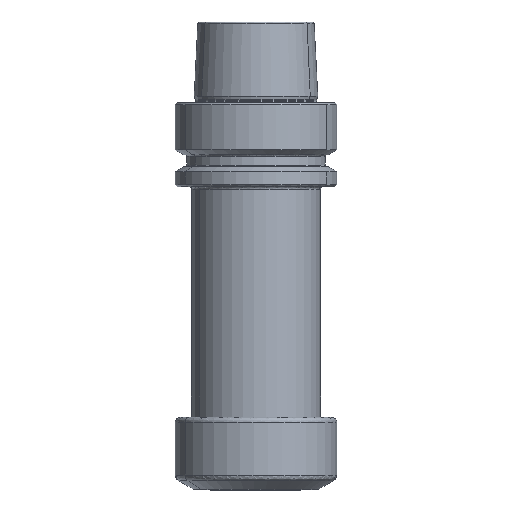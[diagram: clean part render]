
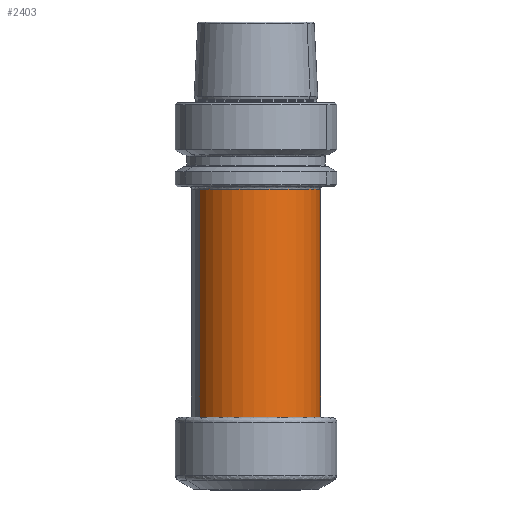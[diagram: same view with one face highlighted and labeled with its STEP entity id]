
A CAD part, left-side view. The second image highlights one B-rep face of the part: STEP entity #2403.
In plain terms, the highlighted face is a revolution surface.
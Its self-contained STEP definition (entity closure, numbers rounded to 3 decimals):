
#2371=AXIS2_PLACEMENT_3D('Circle Axis2P3D',#2369,#2370,$) ;
#2394=AXIS2_PLACEMENT_3D('Circle Axis2P3D',#2392,#2393,$) ;
#969=CARTESIAN_POINT('Vertex',(9.589,-17.552,-26.8)) ;
#976=CARTESIAN_POINT('Vertex',(-9.589,17.552,-26.8)) ;
#1006=CARTESIAN_POINT('Control Point',(9.589,-17.552,-98.366)) ;
#1007=CARTESIAN_POINT('Control Point',(9.589,-17.552,-84.053)) ;
#1008=CARTESIAN_POINT('Control Point',(9.589,-17.552,-69.74)) ;
#1009=CARTESIAN_POINT('Control Point',(9.589,-17.552,-55.426)) ;
#1010=CARTESIAN_POINT('Control Point',(9.589,-17.552,-41.113)) ;
#1011=CARTESIAN_POINT('Control Point',(9.589,-17.552,-26.8)) ;
#1012=CARTESIAN_POINT('Vertex',(9.589,-17.552,-98.366)) ;
#1019=CARTESIAN_POINT('Vertex',(-9.589,17.552,-98.366)) ;
#1023=CARTESIAN_POINT('Control Point',(-9.589,17.552,-98.366)) ;
#1024=CARTESIAN_POINT('Control Point',(-9.589,17.552,-84.053)) ;
#1025=CARTESIAN_POINT('Control Point',(-9.589,17.552,-69.74)) ;
#1026=CARTESIAN_POINT('Control Point',(-9.589,17.552,-55.426)) ;
#1027=CARTESIAN_POINT('Control Point',(-9.589,17.552,-41.113)) ;
#1028=CARTESIAN_POINT('Control Point',(-9.589,17.552,-26.8)) ;
#2369=CARTESIAN_POINT('Axis2P3D Location',(0.,0.,-98.366)) ;
#2382=CARTESIAN_POINT('Control Point',(0.,-20.,-98.366)) ;
#2383=CARTESIAN_POINT('Control Point',(0.,-20.,-84.053)) ;
#2384=CARTESIAN_POINT('Control Point',(0.,-20.,-69.74)) ;
#2385=CARTESIAN_POINT('Control Point',(0.,-20.,-55.426)) ;
#2386=CARTESIAN_POINT('Control Point',(0.,-20.,-41.113)) ;
#2387=CARTESIAN_POINT('Control Point',(0.,-20.,-26.8)) ;
#2388=CARTESIAN_POINT('Axis1P Location',(0.,0.,-47.486)) ;
#2392=CARTESIAN_POINT('Axis2P3D Location',(0.,0.,-26.8)) ;
#2370=DIRECTION('Axis2P3D Direction',(0.,0.,1.)) ;
#2389=DIRECTION('Axis1P Direction',(0.,0.,1.)) ;
#2393=DIRECTION('Axis2P3D Direction',(0.,0.,1.)) ;
#2390=AXIS1_PLACEMENT('Revolution Surface Axis1P',#2388,#2389) ;
#2398=ORIENTED_EDGE('',*,*,#2373,.T.) ;
#2399=ORIENTED_EDGE('',*,*,#1014,.F.) ;
#2400=ORIENTED_EDGE('',*,*,#2396,.F.) ;
#2401=ORIENTED_EDGE('',*,*,#1029,.T.) ;
#2403=ADVANCED_FACE('NOCUT',(#2402),#2391,.T.) ;
#1005=B_SPLINE_CURVE_WITH_KNOTS('',5,(#1006,#1007,#1008,#1009,#1010,#1011),.UNSPECIFIED.,.F.,.U.,(6,6),(94.668,166.234),.UNSPECIFIED.) ;
#1022=B_SPLINE_CURVE_WITH_KNOTS('',5,(#1023,#1024,#1025,#1026,#1027,#1028),.UNSPECIFIED.,.F.,.U.,(6,6),(94.668,166.234),.UNSPECIFIED.) ;
#2381=B_SPLINE_CURVE_WITH_KNOTS('',5,(#2382,#2383,#2384,#2385,#2386,#2387),.UNSPECIFIED.,.F.,.U.,(6,6),(94.668,166.234),.UNSPECIFIED.) ;
#2372=CIRCLE('generated circle',#2371,20.) ;
#2395=CIRCLE('generated circle',#2394,20.) ;
#1014=EDGE_CURVE('',#970,#1013,#1005,.F.) ;
#1029=EDGE_CURVE('',#977,#1020,#1022,.F.) ;
#2373=EDGE_CURVE('',#1020,#1013,#2372,.T.) ;
#2396=EDGE_CURVE('',#977,#970,#2395,.T.) ;
#2397=EDGE_LOOP('',(#2398,#2399,#2400,#2401)) ;
#2402=FACE_OUTER_BOUND('',#2397,.T.) ;
#2391=SURFACE_OF_REVOLUTION('Surface of Revolution',#2381,#2390) ;
#970=VERTEX_POINT('',#969) ;
#977=VERTEX_POINT('',#976) ;
#1013=VERTEX_POINT('',#1012) ;
#1020=VERTEX_POINT('',#1019) ;
